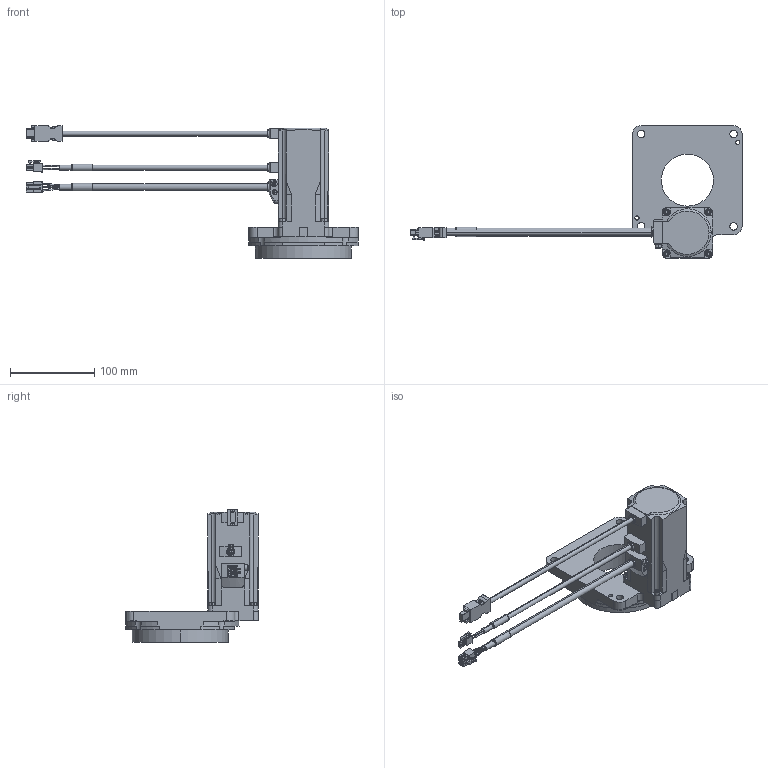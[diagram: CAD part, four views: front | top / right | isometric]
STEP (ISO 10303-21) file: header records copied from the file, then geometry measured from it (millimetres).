
FILE_DESCRIPTION (( 'STEP AP203' ), '1' );
FILE_NAME ('D7647.step', '2017-01-13T06:22:18', ( 'om' ), ( 'Hewlett-Packard Company' ), 'SwSTEP 2.0', 'SolidWorks 2014', '' );
FILE_SCHEMA (( 'CONFIG_CONTROL_DESIGN' ));
Length unit declared in the file: millimetre
Products named in the file (1): D7647
Bounding box: 395 x 158.2 x 157.9 mm (x, y, z)
Volume: 813236.8 mm3; surface area: 117605.5 mm2
Topology: 1 solids, 9 shells, 995 faces, 2659 edges, 1724 vertices
Faces by surface type: plane 671, cylinder 246, cone 38, bspline 19, torus 19, sphere 2
Entity records: 34444 total; most frequent: CARTESIAN_POINT 9326, ORIENTED_EDGE 5278, DIRECTION 5065, EDGE_CURVE 2639, VECTOR 1969, LINE 1969, VERTEX_POINT 1724, AXIS2_PLACEMENT_3D 1548
